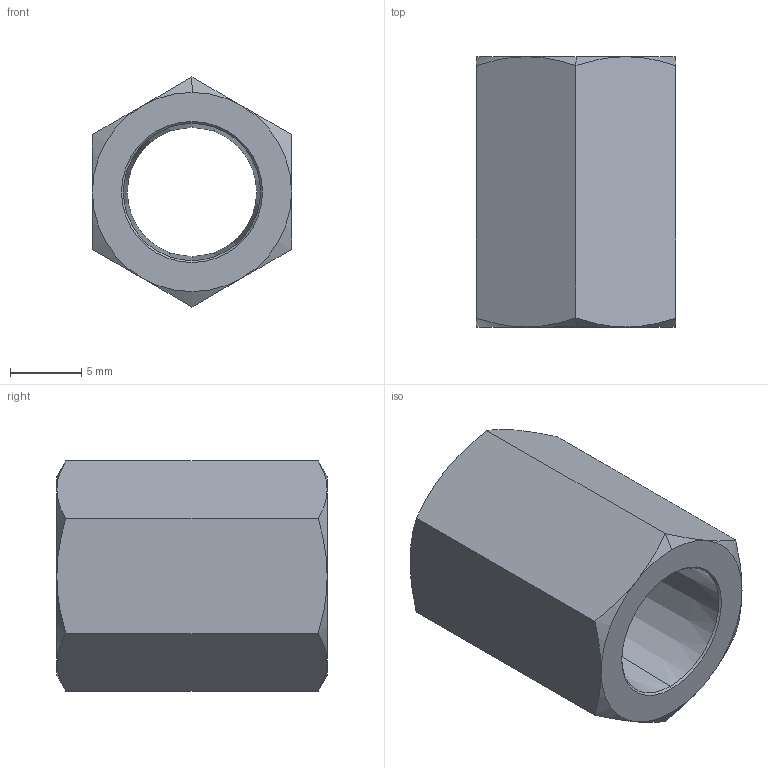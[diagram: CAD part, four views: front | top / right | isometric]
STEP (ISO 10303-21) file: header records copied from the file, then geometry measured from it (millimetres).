
FILE_DESCRIPTION (( 'STEP AP203' ), '1' );
FILE_NAME ('BXH02 N1N1 00.STEP', '2018-10-27T12:11:08', ( '' ), ( '' ), 'SwSTEP 2.0', 'SolidWorks 2013', '' );
FILE_SCHEMA (( 'CONFIG_CONTROL_DESIGN' ));
Length unit declared in the file: millimetre
Products named in the file (1): BXH02 N1N1 00
Bounding box: 14 x 19 x 16.17 mm (x, y, z)
Volume: 1908.9 mm3; surface area: 1653.7 mm2
Topology: 1 solids, 1 shells, 30 faces, 64 edges, 36 vertices
Faces by surface type: cone 22, plane 8
Entity records: 961 total; most frequent: CARTESIAN_POINT 267, ORIENTED_EDGE 128, DIRECTION 126, EDGE_CURVE 64, AXIS2_PLACEMENT_3D 55, VERTEX_POINT 36, EDGE_LOOP 32, ADVANCED_FACE 30
